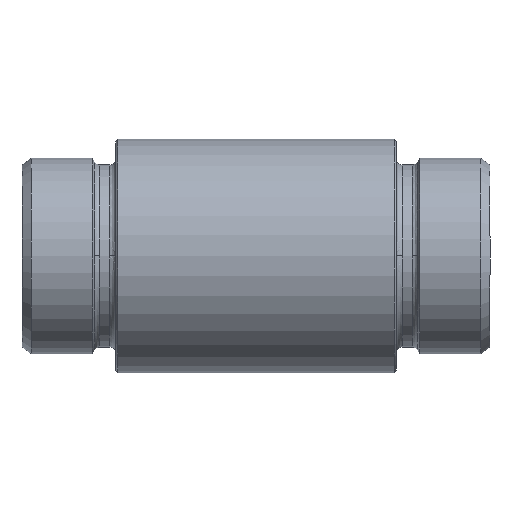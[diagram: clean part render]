
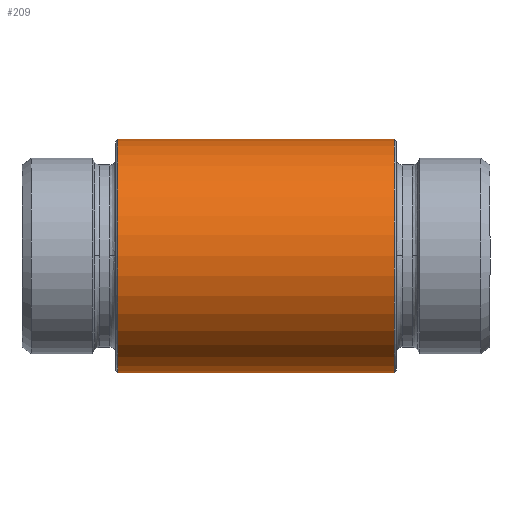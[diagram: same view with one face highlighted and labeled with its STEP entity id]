
A CAD part, top view. The second image highlights one B-rep face of the part: STEP entity #209.
In plain terms, the highlighted cylindrical face has radius 25 mm (diameter 50 mm), a partial arc.
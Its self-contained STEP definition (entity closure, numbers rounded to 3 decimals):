
#143=CARTESIAN_POINT('',(-25.0,0.,34.5));
#144=VERTEX_POINT('',#143);
#160=CARTESIAN_POINT('',(25.0,0.0,34.5));
#161=VERTEX_POINT('',#160);
#168=CARTESIAN_POINT('',(0.0,0.0,34.5));
#169=DIRECTION('',(0.0,0.0,1.0));
#170=DIRECTION('',(-1.0,0.0,0.0));
#171=AXIS2_PLACEMENT_3D('',#168,#169,#170);
#172=CIRCLE('',#171,25.0);
#173=EDGE_CURVE('',#161,#144,#172,.T.);
#178=CARTESIAN_POINT('',(0.0,0.0,-25.0));
#179=DIRECTION('',(0.0,0.0,1.0));
#180=DIRECTION('',(1.0,0.0,0.0));
#181=AXIS2_PLACEMENT_3D('',#178,#179,#180);
#182=CYLINDRICAL_SURFACE('',#181,25.0);
#183=CARTESIAN_POINT('',(25.0,0.0,-24.5));
#184=VERTEX_POINT('',#183);
#185=CARTESIAN_POINT('',(25.0,0.0,-24.5));
#186=DIRECTION('',(0.0,0.0,1.0));
#187=VECTOR('',#186,59.0);
#188=LINE('',#185,#187);
#189=EDGE_CURVE('',#184,#161,#188,.T.);
#190=ORIENTED_EDGE('',*,*,#189,.F.);
#191=CARTESIAN_POINT('',(-25.0,0.,-24.5));
#192=VERTEX_POINT('',#191);
#193=CARTESIAN_POINT('',(0.0,0.0,-24.5));
#194=DIRECTION('',(0.0,0.0,-1.0));
#195=DIRECTION('',(-1.0,0.0,0.0));
#196=AXIS2_PLACEMENT_3D('',#193,#194,#195);
#197=CIRCLE('',#196,25.0);
#198=EDGE_CURVE('',#192,#184,#197,.T.);
#199=ORIENTED_EDGE('',*,*,#198,.F.);
#200=CARTESIAN_POINT('',(-25.0,0.,34.5));
#201=DIRECTION('',(0.0,0.0,-1.0));
#202=VECTOR('',#201,59.0);
#203=LINE('',#200,#202);
#204=EDGE_CURVE('',#144,#192,#203,.T.);
#205=ORIENTED_EDGE('',*,*,#204,.F.);
#206=ORIENTED_EDGE('',*,*,#173,.F.);
#207=EDGE_LOOP('',(#190,#199,#205,#206));
#208=FACE_OUTER_BOUND('',#207,.T.);
#209=ADVANCED_FACE('',(#208),#182,.T.);
